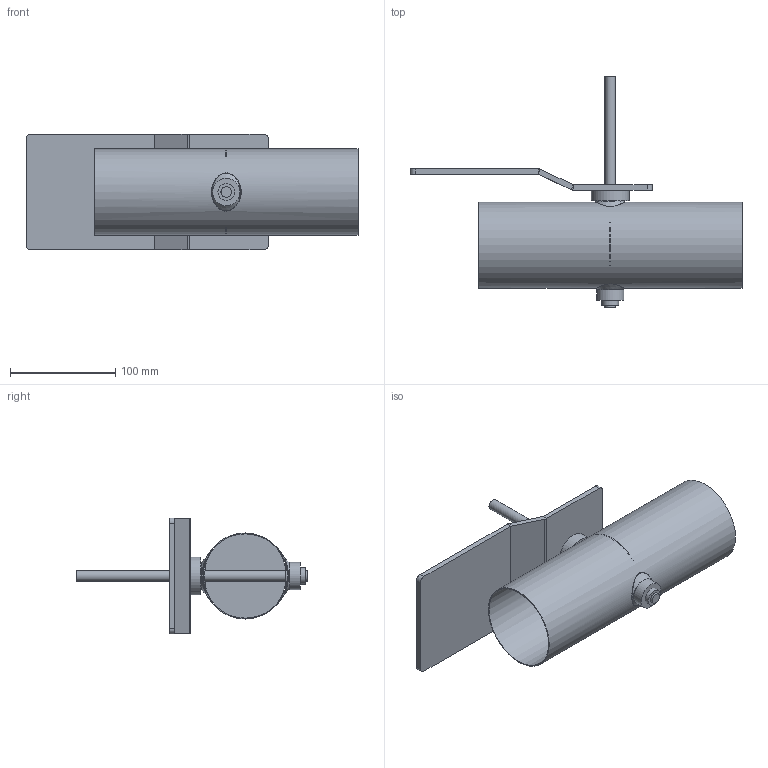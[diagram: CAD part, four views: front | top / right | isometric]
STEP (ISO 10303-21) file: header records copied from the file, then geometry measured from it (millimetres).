
FILE_DESCRIPTION(/* description */ (''),/* implementation_level */ '2;1');
FILE_NAME(/* name */ 'AA118-80B__80_L250_Belimo_Typen_NF_SF.stp',/* time_stamp */ '2017-12-05T13:06:29+01:00',/* author */ (''),/* organization */ (''),/* preprocessor_version */ 'ST-DEVELOPER v11',/* originating_system */ 'SIEMENS UGS NX 6.0',/* authorisation */ '');
FILE_SCHEMA (('CONFIG_CONTROL_DESIGN'));
Length unit declared in the file: millimetre
Products named in the file (1): gars1E3Bhifa
Bounding box: 315 x 219 x 110 mm (x, y, z)
Volume: 217849.8 mm3; surface area: 208593 mm2
Topology: 8 solids, 8 shells, 80 faces, 168 edges, 110 vertices
Faces by surface type: plane 40, cylinder 28, cone 4, bspline 4, torus 4
Full cylindrical faces by diameter (mm): 4.1 x2, 10 x3, 15 x3, 15.85 x2, 16 x2, 24 x2, 26 x1, 36 x1, 80 x1, 81.6 x1
Entity records: 2648 total; most frequent: CARTESIAN_POINT 1025, DIRECTION 330, ORIENTED_EDGE 240, AXIS2_PLACEMENT_3D 141, EDGE_LOOP 136, EDGE_CURVE 120, FACE_BOUND 106, VERTEX_POINT 92
